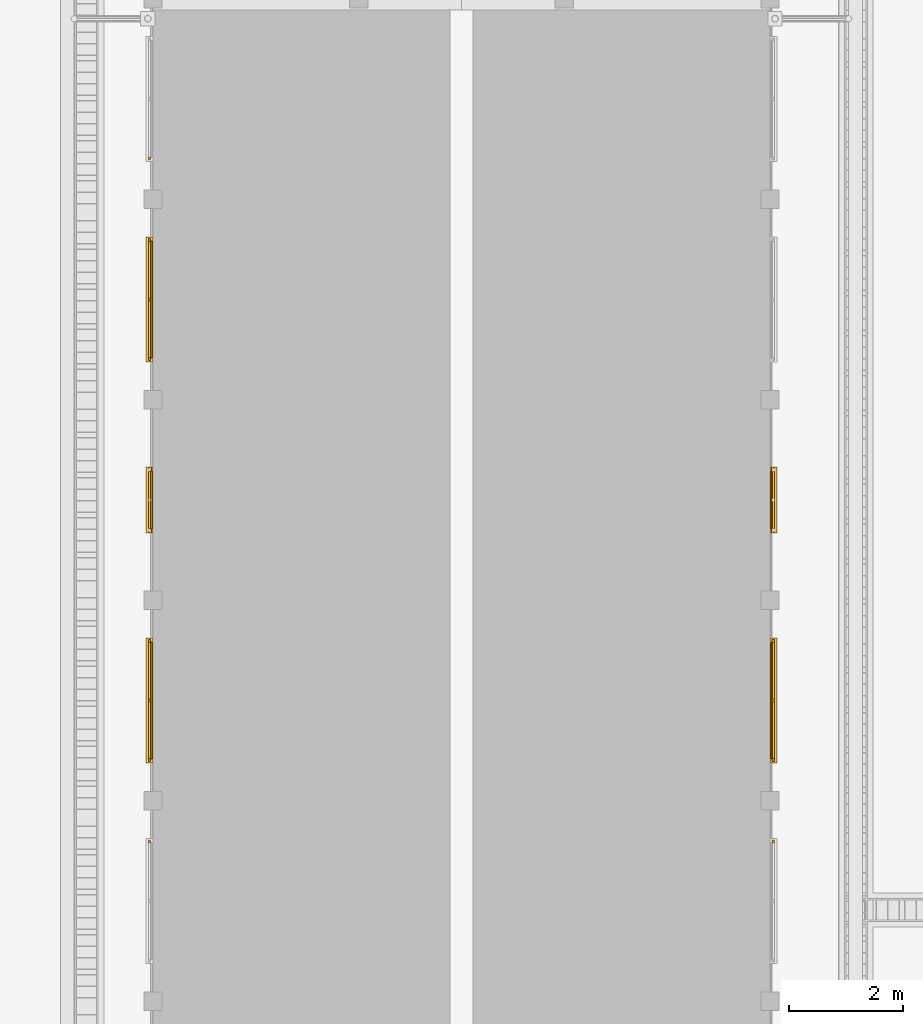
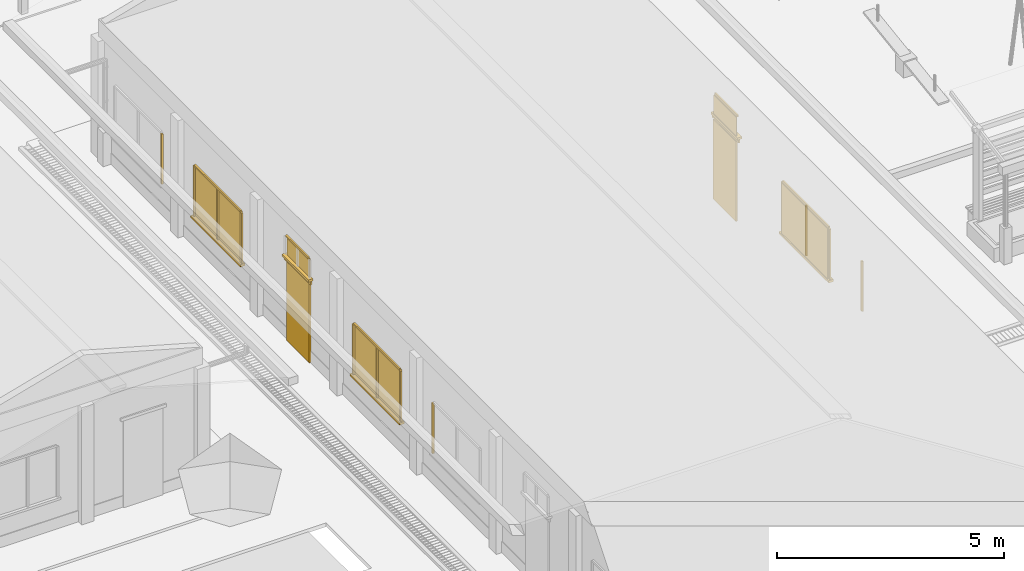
# One storey, part 49 of 166: 27 windows, 4 doors.
"""IFC2X3 building model written with IfcOpenShell, lengths in metres."""

from ifc_helpers import new_model, si_unit, origin, origin_with_axes, place, context, subcontext, project, spatial, faceted_brep, element, save


model = new_model("IFC2X3")

# Units and contexts
model_context = context("Model", 3, precision=1e-05, world=origin_with_axes())
body_context = subcontext(model_context, "Body", "Model", "MODEL_VIEW")
ifc_project = project(units=[si_unit("LENGTHUNIT", "METRE"), si_unit("AREAUNIT", "SQUARE_METRE"), si_unit("VOLUMEUNIT", "CUBIC_METRE"), si_unit("PLANEANGLEUNIT", "RADIAN")], contexts=[model_context])

# Site, building, storey
site_placement = place(None, origin_with_axes())
site = spatial("IfcSite", under=ifc_project, at=site_placement, Name="Predio Los Mangos - Morales, San Martín", CompositionType="ELEMENT")
building_placement = place(site_placement, origin())
building = spatial("IfcBuilding", under=site, at=building_placement, Name="Hogar de Refugio Temporal", CompositionType="ELEMENT")
storey_placement = place(building_placement, origin())
storey = spatial("IfcBuildingStorey", under=building, at=storey_placement, Name="NIVEL 1 (NPT +0.00)", CompositionType="ELEMENT", Elevation=0.0)

# Windows
window_1_placement = place(storey_placement, origin())
element("IfcWindow", 1, at=window_1_placement, inside=storey, Name="E-04_v5_m", ObjectType="Ventana", context=body_context, shape_type="Brep", body=[
    faceted_brep([(13.72, 72.4229, 1.05), (13.72, 72.4729, 1.05), (13.76, 72.4729, 1.05), (13.76, 72.4229, 1.05), (13.72, 72.4229, 2.4), (13.76, 72.4229, 2.4), (13.76, 72.4729, 2.4), (13.72, 72.4729, 2.4)], [[[0, 1, 2, 3]], [[4, 5, 6, 7]], [[0, 3, 5, 4]], [[3, 2, 6, 5]], [[2, 1, 7, 6]], [[1, 0, 4, 7]]]),
])
window_2_placement = place(storey_placement, origin())
element("IfcWindow", 2, at=window_2_placement, inside=storey, Name="E-04_v6_vid", ObjectType="Ventana", context=body_context, shape_type="Brep", body=[
    faceted_brep([(13.76, 73.8971, 1.05), (13.76, 75.9329, 1.05), (13.78, 75.9329, 1.05), (13.78, 73.8971, 1.05), (13.76, 73.8971, 2.4), (13.78, 73.8971, 2.4), (13.78, 75.9329, 2.4), (13.76, 75.9329, 2.4)], [[[0, 1, 2, 3]], [[4, 5, 6, 7]], [[0, 3, 5, 4]], [[3, 2, 6, 5]], [[2, 1, 7, 6]], [[1, 0, 4, 7]]]),
])
window_3_placement = place(storey_placement, origin())
element("IfcWindow", 3, at=window_3_placement, inside=storey, Name="E-04_v6_m", ObjectType="Ventana", context=body_context, shape_type="Brep", body=[
    faceted_brep([(13.72, 73.8471, 1.05), (13.72, 73.8971, 1.05), (13.76, 73.8971, 1.05), (13.76, 73.8471, 1.05), (13.72, 73.8471, 2.4), (13.76, 73.8471, 2.4), (13.76, 73.8971, 2.4), (13.72, 73.8971, 2.4)], [[[0, 1, 2, 3]], [[4, 5, 6, 7]], [[0, 3, 5, 4]], [[3, 2, 6, 5]], [[2, 1, 7, 6]], [[1, 0, 4, 7]]]),
])
window_4_placement = place(storey_placement, origin())
element("IfcWindow", 4, at=window_4_placement, inside=storey, Name="E-04_v6_m", ObjectType="Ventana", context=body_context, shape_type="Brep", body=[
    faceted_brep([(13.72, 75.9329, 1.05), (13.72, 75.9829, 1.05), (13.76, 75.9829, 1.05), (13.76, 75.9329, 1.05), (13.72, 75.9329, 2.4), (13.76, 75.9329, 2.4), (13.76, 75.9829, 2.4), (13.72, 75.9829, 2.4)], [[[0, 1, 2, 3]], [[4, 5, 6, 7]], [[0, 3, 5, 4]], [[3, 2, 6, 5]], [[2, 1, 7, 6]], [[1, 0, 4, 7]]]),
])
window_5_placement = place(storey_placement, origin())
element("IfcWindow", 5, at=window_5_placement, inside=storey, Name="E-04_v6_m", ObjectType="Ventana", context=body_context, shape_type="Brep", body=[
    faceted_brep([(13.72, 73.8971, 2.4), (13.72, 75.9329, 2.4), (13.76, 75.9329, 2.4), (13.76, 73.8971, 2.4), (13.72, 73.8971, 2.45), (13.76, 73.8971, 2.45), (13.76, 75.9329, 2.45), (13.72, 75.9329, 2.45)], [[[0, 1, 2, 3]], [[4, 5, 6, 7]], [[0, 3, 5, 4]], [[3, 2, 6, 5]], [[2, 1, 7, 6]], [[1, 0, 4, 7]]]),
])
window_6_placement = place(storey_placement, origin())
element("IfcWindow", 6, at=window_6_placement, inside=storey, Name="E-04_v6_m", ObjectType="Ventana", context=body_context, shape_type="Brep", body=[
    faceted_brep([(13.72, 74.89, 1.05), (13.72, 74.94, 1.05), (13.76, 74.94, 1.05), (13.76, 74.89, 1.05), (13.72, 74.89, 2.4), (13.76, 74.89, 2.4), (13.76, 74.94, 2.4), (13.72, 74.94, 2.4)], [[[0, 1, 2, 3]], [[4, 5, 6, 7]], [[0, 3, 5, 4]], [[3, 2, 6, 5]], [[2, 1, 7, 6]], [[1, 0, 4, 7]]]),
])
window_7_placement = place(storey_placement, origin())
element("IfcWindow", 7, at=window_7_placement, inside=storey, Name="E-04_v6_alf", ObjectType="Ventana", context=body_context, shape_type="Brep", body=[
    faceted_brep([(13.8, 73.8171, 0.99), (13.8, 76.0129, 0.99), (13.68, 76.0129, 0.99), (13.68, 73.8171, 0.99), (13.8, 73.8171, 1.05), (13.68, 73.8171, 1.05), (13.68, 76.0129, 1.05), (13.8, 76.0129, 1.05)], [[[0, 1, 2, 3]], [[4, 5, 6, 7]], [[0, 3, 5, 4]], [[3, 2, 6, 5]], [[2, 1, 7, 6]], [[1, 0, 4, 7]]]),
])

# Doors
door_1_placement = place(storey_placement, origin())
element("IfcDoor", 8, at=door_1_placement, inside=storey, Name="E-04_p7", ObjectType="Puerta", context=body_context, shape_type="Brep", body=[
    faceted_brep([(13.75, 77.925, 0.15), (13.75, 78.925, 0.15), (13.79, 78.925, 0.15), (13.79, 77.925, 0.15), (13.75, 77.925, 2.3), (13.79, 77.925, 2.3), (13.79, 78.925, 2.3), (13.75, 78.925, 2.3)], [[[0, 1, 2, 3]], [[4, 5, 6, 7]], [[0, 3, 5, 4]], [[3, 2, 6, 5]], [[2, 1, 7, 6]], [[1, 0, 4, 7]]]),
])
door_2_placement = place(storey_placement, origin())
element("IfcDoor", 9, at=door_2_placement, inside=storey, Name="E-04_p7_marco", ObjectType="Puerta", context=body_context, shape_type="Brep", body=[
    faceted_brep([(13.73, 77.845, 2.3), (13.73, 79.005, 2.3), (13.77, 79.005, 2.3), (13.77, 77.845, 2.3), (13.73, 77.845, 2.38), (13.77, 77.845, 2.38), (13.77, 79.005, 2.38), (13.73, 79.005, 2.38)], [[[0, 1, 2, 3]], [[4, 5, 6, 7]], [[0, 3, 5, 4]], [[3, 2, 6, 5]], [[2, 1, 7, 6]], [[1, 0, 4, 7]]]),
])

# Windows
window_8_placement = place(storey_placement, origin())
element("IfcWindow", 10, at=window_8_placement, inside=storey, Name="E-04_vt7_vid", ObjectType="Ventana", context=body_context, shape_type="Brep", body=[
    faceted_brep([(13.76, 77.925, 2.45), (13.76, 78.925, 2.45), (13.78, 78.925, 2.45), (13.78, 77.925, 2.45), (13.76, 77.925, 2.95), (13.78, 77.925, 2.95), (13.78, 78.925, 2.95), (13.76, 78.925, 2.95)], [[[0, 1, 2, 3]], [[4, 5, 6, 7]], [[0, 3, 5, 4]], [[3, 2, 6, 5]], [[2, 1, 7, 6]], [[1, 0, 4, 7]]]),
])
window_9_placement = place(storey_placement, origin())
element("IfcWindow", 11, at=window_9_placement, inside=storey, Name="E-04_vt7_m", ObjectType="Ventana", context=body_context, shape_type="Brep", body=[
    faceted_brep([(13.72, 77.925, 2.95), (13.72, 78.925, 2.95), (13.76, 78.925, 2.95), (13.76, 77.925, 2.95), (13.72, 77.925, 3.0), (13.76, 77.925, 3.0), (13.76, 78.925, 3.0), (13.72, 78.925, 3.0)], [[[0, 1, 2, 3]], [[4, 5, 6, 7]], [[0, 3, 5, 4]], [[3, 2, 6, 5]], [[2, 1, 7, 6]], [[1, 0, 4, 7]]]),
])
window_10_placement = place(storey_placement, origin())
element("IfcWindow", 12, at=window_10_placement, inside=storey, Name="E-04_vt7_alf", ObjectType="Ventana", context=body_context, shape_type="Brep", body=[
    faceted_brep([(13.8, 77.845, 2.39), (13.8, 79.005, 2.39), (13.68, 79.005, 2.39), (13.68, 77.845, 2.39), (13.8, 77.845, 2.45), (13.68, 77.845, 2.45), (13.68, 79.005, 2.45), (13.8, 79.005, 2.45)], [[[0, 1, 2, 3]], [[4, 5, 6, 7]], [[0, 3, 5, 4]], [[3, 2, 6, 5]], [[2, 1, 7, 6]], [[1, 0, 4, 7]]]),
])
window_11_placement = place(storey_placement, origin())
element("IfcWindow", 13, at=window_11_placement, inside=storey, Name="E-04_v8_vid", ObjectType="Ventana", context=body_context, shape_type="Brep", body=[
    faceted_brep([(13.76, 80.9171, 1.05), (13.76, 82.9529, 1.05), (13.78, 82.9529, 1.05), (13.78, 80.9171, 1.05), (13.76, 80.9171, 2.4), (13.78, 80.9171, 2.4), (13.78, 82.9529, 2.4), (13.76, 82.9529, 2.4)], [[[0, 1, 2, 3]], [[4, 5, 6, 7]], [[0, 3, 5, 4]], [[3, 2, 6, 5]], [[2, 1, 7, 6]], [[1, 0, 4, 7]]]),
])
window_12_placement = place(storey_placement, origin())
element("IfcWindow", 14, at=window_12_placement, inside=storey, Name="E-04_v8_m", ObjectType="Ventana", context=body_context, shape_type="Brep", body=[
    faceted_brep([(13.72, 80.8671, 1.05), (13.72, 80.9171, 1.05), (13.76, 80.9171, 1.05), (13.76, 80.8671, 1.05), (13.72, 80.8671, 2.4), (13.76, 80.8671, 2.4), (13.76, 80.9171, 2.4), (13.72, 80.9171, 2.4)], [[[0, 1, 2, 3]], [[4, 5, 6, 7]], [[0, 3, 5, 4]], [[3, 2, 6, 5]], [[2, 1, 7, 6]], [[1, 0, 4, 7]]]),
])
window_13_placement = place(storey_placement, origin())
element("IfcWindow", 15, at=window_13_placement, inside=storey, Name="E-04_v8_m", ObjectType="Ventana", context=body_context, shape_type="Brep", body=[
    faceted_brep([(13.72, 82.9529, 1.05), (13.72, 83.0029, 1.05), (13.76, 83.0029, 1.05), (13.76, 82.9529, 1.05), (13.72, 82.9529, 2.4), (13.76, 82.9529, 2.4), (13.76, 83.0029, 2.4), (13.72, 83.0029, 2.4)], [[[0, 1, 2, 3]], [[4, 5, 6, 7]], [[0, 3, 5, 4]], [[3, 2, 6, 5]], [[2, 1, 7, 6]], [[1, 0, 4, 7]]]),
])
window_14_placement = place(storey_placement, origin())
element("IfcWindow", 16, at=window_14_placement, inside=storey, Name="E-04_v8_m", ObjectType="Ventana", context=body_context, shape_type="Brep", body=[
    faceted_brep([(13.72, 80.9171, 2.4), (13.72, 82.9529, 2.4), (13.76, 82.9529, 2.4), (13.76, 80.9171, 2.4), (13.72, 80.9171, 2.45), (13.76, 80.9171, 2.45), (13.76, 82.9529, 2.45), (13.72, 82.9529, 2.45)], [[[0, 1, 2, 3]], [[4, 5, 6, 7]], [[0, 3, 5, 4]], [[3, 2, 6, 5]], [[2, 1, 7, 6]], [[1, 0, 4, 7]]]),
])
window_15_placement = place(storey_placement, origin())
element("IfcWindow", 17, at=window_15_placement, inside=storey, Name="E-04_v8_m", ObjectType="Ventana", context=body_context, shape_type="Brep", body=[
    faceted_brep([(13.72, 81.91, 1.05), (13.72, 81.96, 1.05), (13.76, 81.96, 1.05), (13.76, 81.91, 1.05), (13.72, 81.91, 2.4), (13.76, 81.91, 2.4), (13.76, 81.96, 2.4), (13.72, 81.96, 2.4)], [[[0, 1, 2, 3]], [[4, 5, 6, 7]], [[0, 3, 5, 4]], [[3, 2, 6, 5]], [[2, 1, 7, 6]], [[1, 0, 4, 7]]]),
])
window_16_placement = place(storey_placement, origin())
element("IfcWindow", 18, at=window_16_placement, inside=storey, Name="E-04_v8_alf", ObjectType="Ventana", context=body_context, shape_type="Brep", body=[
    faceted_brep([(13.8, 80.8371, 0.99), (13.8, 83.0329, 0.99), (13.68, 83.0329, 0.99), (13.68, 80.8371, 0.99), (13.8, 80.8371, 1.05), (13.68, 80.8371, 1.05), (13.68, 83.0329, 1.05), (13.8, 83.0329, 1.05)], [[[0, 1, 2, 3]], [[4, 5, 6, 7]], [[0, 3, 5, 4]], [[3, 2, 6, 5]], [[2, 1, 7, 6]], [[1, 0, 4, 7]]]),
])
window_17_placement = place(storey_placement, origin())
element("IfcWindow", 19, at=window_17_placement, inside=storey, Name="E-04_v9_m", ObjectType="Ventana", context=body_context, shape_type="Brep", body=[
    faceted_brep([(13.72, 84.3771, 1.05), (13.72, 84.4271, 1.05), (13.76, 84.4271, 1.05), (13.76, 84.3771, 1.05), (13.72, 84.3771, 2.4), (13.76, 84.3771, 2.4), (13.76, 84.4271, 2.4), (13.72, 84.4271, 2.4)], [[[0, 1, 2, 3]], [[4, 5, 6, 7]], [[0, 3, 5, 4]], [[3, 2, 6, 5]], [[2, 1, 7, 6]], [[1, 0, 4, 7]]]),
])
window_18_placement = place(storey_placement, origin())
element("IfcWindow", 20, at=window_18_placement, inside=storey, Name="E-04_v5_m", ObjectType="Ventana", context=body_context, shape_type="Brep", body=[
    faceted_brep([(24.64, 72.4229, 1.05), (24.64, 72.4729, 1.05), (24.68, 72.4729, 1.05), (24.68, 72.4229, 1.05), (24.64, 72.4229, 2.4), (24.68, 72.4229, 2.4), (24.68, 72.4729, 2.4), (24.64, 72.4729, 2.4)], [[[0, 1, 2, 3]], [[4, 5, 6, 7]], [[0, 3, 5, 4]], [[3, 2, 6, 5]], [[2, 1, 7, 6]], [[1, 0, 4, 7]]]),
])
window_19_placement = place(storey_placement, origin())
element("IfcWindow", 21, at=window_19_placement, inside=storey, Name="E-04_v6_vid", ObjectType="Ventana", context=body_context, shape_type="Brep", body=[
    faceted_brep([(24.62, 73.8971, 1.05), (24.62, 75.9329, 1.05), (24.64, 75.9329, 1.05), (24.64, 73.8971, 1.05), (24.62, 73.8971, 2.4), (24.64, 73.8971, 2.4), (24.64, 75.9329, 2.4), (24.62, 75.9329, 2.4)], [[[0, 1, 2, 3]], [[4, 5, 6, 7]], [[0, 3, 5, 4]], [[3, 2, 6, 5]], [[2, 1, 7, 6]], [[1, 0, 4, 7]]]),
])
window_20_placement = place(storey_placement, origin())
element("IfcWindow", 22, at=window_20_placement, inside=storey, Name="E-04_v6_m", ObjectType="Ventana", context=body_context, shape_type="Brep", body=[
    faceted_brep([(24.64, 73.8471, 1.05), (24.64, 73.8971, 1.05), (24.68, 73.8971, 1.05), (24.68, 73.8471, 1.05), (24.64, 73.8471, 2.4), (24.68, 73.8471, 2.4), (24.68, 73.8971, 2.4), (24.64, 73.8971, 2.4)], [[[0, 1, 2, 3]], [[4, 5, 6, 7]], [[0, 3, 5, 4]], [[3, 2, 6, 5]], [[2, 1, 7, 6]], [[1, 0, 4, 7]]]),
])
window_21_placement = place(storey_placement, origin())
element("IfcWindow", 23, at=window_21_placement, inside=storey, Name="E-04_v6_m", ObjectType="Ventana", context=body_context, shape_type="Brep", body=[
    faceted_brep([(24.64, 75.9329, 1.05), (24.64, 75.9829, 1.05), (24.68, 75.9829, 1.05), (24.68, 75.9329, 1.05), (24.64, 75.9329, 2.4), (24.68, 75.9329, 2.4), (24.68, 75.9829, 2.4), (24.64, 75.9829, 2.4)], [[[0, 1, 2, 3]], [[4, 5, 6, 7]], [[0, 3, 5, 4]], [[3, 2, 6, 5]], [[2, 1, 7, 6]], [[1, 0, 4, 7]]]),
])
window_22_placement = place(storey_placement, origin())
element("IfcWindow", 24, at=window_22_placement, inside=storey, Name="E-04_v6_m", ObjectType="Ventana", context=body_context, shape_type="Brep", body=[
    faceted_brep([(24.64, 73.8971, 2.4), (24.64, 75.9329, 2.4), (24.68, 75.9329, 2.4), (24.68, 73.8971, 2.4), (24.64, 73.8971, 2.45), (24.68, 73.8971, 2.45), (24.68, 75.9329, 2.45), (24.64, 75.9329, 2.45)], [[[0, 1, 2, 3]], [[4, 5, 6, 7]], [[0, 3, 5, 4]], [[3, 2, 6, 5]], [[2, 1, 7, 6]], [[1, 0, 4, 7]]]),
])
window_23_placement = place(storey_placement, origin())
element("IfcWindow", 25, at=window_23_placement, inside=storey, Name="E-04_v6_m", ObjectType="Ventana", context=body_context, shape_type="Brep", body=[
    faceted_brep([(24.64, 74.89, 1.05), (24.64, 74.94, 1.05), (24.68, 74.94, 1.05), (24.68, 74.89, 1.05), (24.64, 74.89, 2.4), (24.68, 74.89, 2.4), (24.68, 74.94, 2.4), (24.64, 74.94, 2.4)], [[[0, 1, 2, 3]], [[4, 5, 6, 7]], [[0, 3, 5, 4]], [[3, 2, 6, 5]], [[2, 1, 7, 6]], [[1, 0, 4, 7]]]),
])
window_24_placement = place(storey_placement, origin())
element("IfcWindow", 26, at=window_24_placement, inside=storey, Name="E-04_v6_alf", ObjectType="Ventana", context=body_context, shape_type="Brep", body=[
    faceted_brep([(24.6, 73.8171, 0.99), (24.6, 76.0129, 0.99), (24.72, 76.0129, 0.99), (24.72, 73.8171, 0.99), (24.6, 73.8171, 1.05), (24.72, 73.8171, 1.05), (24.72, 76.0129, 1.05), (24.6, 76.0129, 1.05)], [[[0, 1, 2, 3]], [[4, 5, 6, 7]], [[0, 3, 5, 4]], [[3, 2, 6, 5]], [[2, 1, 7, 6]], [[1, 0, 4, 7]]]),
])

# Doors
door_3_placement = place(storey_placement, origin())
element("IfcDoor", 27, at=door_3_placement, inside=storey, Name="E-04_p7", ObjectType="Puerta", context=body_context, shape_type="Brep", body=[
    faceted_brep([(24.61, 77.925, 0.15), (24.61, 78.925, 0.15), (24.65, 78.925, 0.15), (24.65, 77.925, 0.15), (24.61, 77.925, 2.3), (24.65, 77.925, 2.3), (24.65, 78.925, 2.3), (24.61, 78.925, 2.3)], [[[0, 1, 2, 3]], [[4, 5, 6, 7]], [[0, 3, 5, 4]], [[3, 2, 6, 5]], [[2, 1, 7, 6]], [[1, 0, 4, 7]]]),
])
door_4_placement = place(storey_placement, origin())
element("IfcDoor", 28, at=door_4_placement, inside=storey, Name="E-04_p7_marco", ObjectType="Puerta", context=body_context, shape_type="Brep", body=[
    faceted_brep([(24.63, 77.845, 2.3), (24.63, 79.005, 2.3), (24.67, 79.005, 2.3), (24.67, 77.845, 2.3), (24.63, 77.845, 2.38), (24.67, 77.845, 2.38), (24.67, 79.005, 2.38), (24.63, 79.005, 2.38)], [[[0, 1, 2, 3]], [[4, 5, 6, 7]], [[0, 3, 5, 4]], [[3, 2, 6, 5]], [[2, 1, 7, 6]], [[1, 0, 4, 7]]]),
])

# Windows
window_25_placement = place(storey_placement, origin())
element("IfcWindow", 29, at=window_25_placement, inside=storey, Name="E-04_vt7_vid", ObjectType="Ventana", context=body_context, shape_type="Brep", body=[
    faceted_brep([(24.62, 77.925, 2.45), (24.62, 78.925, 2.45), (24.64, 78.925, 2.45), (24.64, 77.925, 2.45), (24.62, 77.925, 2.95), (24.64, 77.925, 2.95), (24.64, 78.925, 2.95), (24.62, 78.925, 2.95)], [[[0, 1, 2, 3]], [[4, 5, 6, 7]], [[0, 3, 5, 4]], [[3, 2, 6, 5]], [[2, 1, 7, 6]], [[1, 0, 4, 7]]]),
])
window_26_placement = place(storey_placement, origin())
element("IfcWindow", 30, at=window_26_placement, inside=storey, Name="E-04_vt7_m", ObjectType="Ventana", context=body_context, shape_type="Brep", body=[
    faceted_brep([(24.64, 77.925, 2.95), (24.64, 78.925, 2.95), (24.68, 78.925, 2.95), (24.68, 77.925, 2.95), (24.64, 77.925, 3.0), (24.68, 77.925, 3.0), (24.68, 78.925, 3.0), (24.64, 78.925, 3.0)], [[[0, 1, 2, 3]], [[4, 5, 6, 7]], [[0, 3, 5, 4]], [[3, 2, 6, 5]], [[2, 1, 7, 6]], [[1, 0, 4, 7]]]),
])
window_27_placement = place(storey_placement, origin())
element("IfcWindow", 31, at=window_27_placement, inside=storey, Name="E-04_vt7_alf", ObjectType="Ventana", context=body_context, shape_type="Brep", body=[
    faceted_brep([(24.6, 77.845, 2.39), (24.6, 79.005, 2.39), (24.72, 79.005, 2.39), (24.72, 77.845, 2.39), (24.6, 77.845, 2.45), (24.72, 77.845, 2.45), (24.72, 79.005, 2.45), (24.6, 79.005, 2.45)], [[[0, 1, 2, 3]], [[4, 5, 6, 7]], [[0, 3, 5, 4]], [[3, 2, 6, 5]], [[2, 1, 7, 6]], [[1, 0, 4, 7]]]),
])

save(model, "model.ifc")
